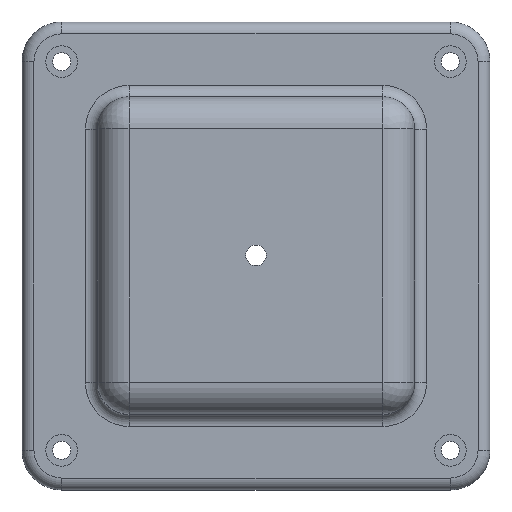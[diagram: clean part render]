
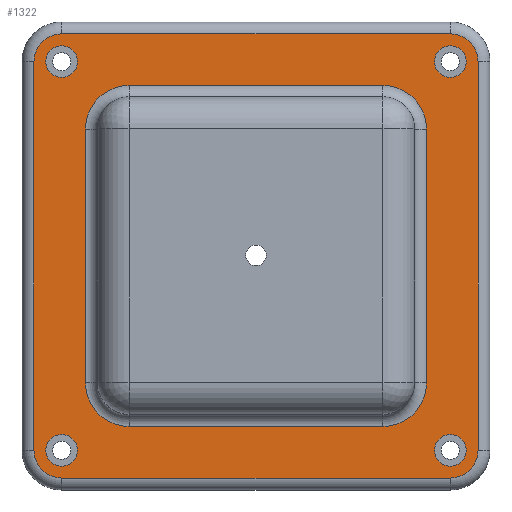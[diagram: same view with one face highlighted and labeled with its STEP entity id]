
A CAD part, top view. The second image highlights one B-rep face of the part: STEP entity #1322.
In plain terms, the highlighted planar face has unit normal (0, 0, 1).
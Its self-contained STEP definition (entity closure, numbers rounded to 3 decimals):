
#42=LINE('',#2171,#106);
#44=LINE('',#2183,#108);
#46=LINE('',#2195,#110);
#47=LINE('',#2203,#111);
#56=LINE('',#2228,#120);
#57=LINE('',#2232,#121);
#58=LINE('',#2236,#122);
#59=LINE('',#2239,#123);
#106=VECTOR('',#1691,98.);
#108=VECTOR('',#1705,98.);
#110=VECTOR('',#1719,98.);
#111=VECTOR('',#1730,98.);
#120=VECTOR('',#1755,64.);
#121=VECTOR('',#1758,64.);
#122=VECTOR('',#1761,64.);
#123=VECTOR('',#1764,64.);
#167=PLANE('',#1459);
#250=FACE_BOUND('',#427,.T.);
#251=FACE_BOUND('',#428,.T.);
#252=FACE_BOUND('',#429,.T.);
#253=FACE_BOUND('',#430,.T.);
#254=FACE_BOUND('',#431,.T.);
#309=FACE_OUTER_BOUND('',#426,.T.);
#426=EDGE_LOOP('',(#1024,#1025,#1026,#1027,#1028,#1029,#1030,#1031));
#427=EDGE_LOOP('',(#1032,#1033,#1034,#1035,#1036,#1037,#1038,#1039));
#428=EDGE_LOOP('',(#1040));
#429=EDGE_LOOP('',(#1041));
#430=EDGE_LOOP('',(#1042));
#431=EDGE_LOOP('',(#1043));
#559=CIRCLE('',#1431,7.);
#565=CIRCLE('',#1439,7.);
#569=CIRCLE('',#1445,7.);
#573=CIRCLE('',#1451,7.);
#576=CIRCLE('',#1460,11.);
#577=CIRCLE('',#1461,11.);
#578=CIRCLE('',#1462,11.);
#579=CIRCLE('',#1463,11.);
#580=CIRCLE('',#1464,4.);
#581=CIRCLE('',#1465,4.);
#582=CIRCLE('',#1466,4.);
#583=CIRCLE('',#1467,4.);
#677=VERTEX_POINT('',#2159);
#678=VERTEX_POINT('',#2161);
#680=VERTEX_POINT('',#2167);
#682=VERTEX_POINT('',#2173);
#684=VERTEX_POINT('',#2179);
#686=VERTEX_POINT('',#2185);
#688=VERTEX_POINT('',#2191);
#690=VERTEX_POINT('',#2197);
#697=VERTEX_POINT('',#2224);
#698=VERTEX_POINT('',#2225);
#699=VERTEX_POINT('',#2227);
#700=VERTEX_POINT('',#2229);
#701=VERTEX_POINT('',#2231);
#702=VERTEX_POINT('',#2233);
#703=VERTEX_POINT('',#2235);
#704=VERTEX_POINT('',#2237);
#705=VERTEX_POINT('',#2240);
#706=VERTEX_POINT('',#2242);
#707=VERTEX_POINT('',#2244);
#708=VERTEX_POINT('',#2246);
#795=EDGE_CURVE('',#677,#678,#559,.T.);
#800=EDGE_CURVE('',#678,#680,#42,.T.);
#803=EDGE_CURVE('',#680,#682,#565,.T.);
#806=EDGE_CURVE('',#682,#684,#44,.T.);
#809=EDGE_CURVE('',#684,#686,#569,.T.);
#812=EDGE_CURVE('',#686,#688,#46,.T.);
#815=EDGE_CURVE('',#688,#690,#573,.T.);
#816=EDGE_CURVE('',#690,#677,#47,.T.);
#827=EDGE_CURVE('',#697,#698,#576,.T.);
#828=EDGE_CURVE('',#699,#697,#56,.T.);
#829=EDGE_CURVE('',#700,#699,#577,.T.);
#830=EDGE_CURVE('',#701,#700,#57,.T.);
#831=EDGE_CURVE('',#702,#701,#578,.T.);
#832=EDGE_CURVE('',#703,#702,#58,.T.);
#833=EDGE_CURVE('',#704,#703,#579,.T.);
#834=EDGE_CURVE('',#698,#704,#59,.T.);
#835=EDGE_CURVE('',#705,#705,#580,.T.);
#836=EDGE_CURVE('',#706,#706,#581,.T.);
#837=EDGE_CURVE('',#707,#707,#582,.T.);
#838=EDGE_CURVE('',#708,#708,#583,.T.);
#1024=ORIENTED_EDGE('',*,*,#795,.F.);
#1025=ORIENTED_EDGE('',*,*,#816,.F.);
#1026=ORIENTED_EDGE('',*,*,#815,.F.);
#1027=ORIENTED_EDGE('',*,*,#812,.F.);
#1028=ORIENTED_EDGE('',*,*,#809,.F.);
#1029=ORIENTED_EDGE('',*,*,#806,.F.);
#1030=ORIENTED_EDGE('',*,*,#803,.F.);
#1031=ORIENTED_EDGE('',*,*,#800,.F.);
#1032=ORIENTED_EDGE('',*,*,#827,.F.);
#1033=ORIENTED_EDGE('',*,*,#828,.F.);
#1034=ORIENTED_EDGE('',*,*,#829,.F.);
#1035=ORIENTED_EDGE('',*,*,#830,.F.);
#1036=ORIENTED_EDGE('',*,*,#831,.F.);
#1037=ORIENTED_EDGE('',*,*,#832,.F.);
#1038=ORIENTED_EDGE('',*,*,#833,.F.);
#1039=ORIENTED_EDGE('',*,*,#834,.F.);
#1040=ORIENTED_EDGE('',*,*,#835,.T.);
#1041=ORIENTED_EDGE('',*,*,#836,.T.);
#1042=ORIENTED_EDGE('',*,*,#837,.T.);
#1043=ORIENTED_EDGE('',*,*,#838,.T.);
#1322=ADVANCED_FACE('',(#309,#250,#251,#252,#253,#254),#167,.T.);
#1431=AXIS2_PLACEMENT_3D('',#2162,#1680,#1681);
#1439=AXIS2_PLACEMENT_3D('',#2177,#1698,#1699);
#1445=AXIS2_PLACEMENT_3D('',#2189,#1712,#1713);
#1451=AXIS2_PLACEMENT_3D('',#2201,#1726,#1727);
#1459=AXIS2_PLACEMENT_3D('',#2223,#1751,#1752);
#1460=AXIS2_PLACEMENT_3D('',#2226,#1753,#1754);
#1461=AXIS2_PLACEMENT_3D('',#2230,#1756,#1757);
#1462=AXIS2_PLACEMENT_3D('',#2234,#1759,#1760);
#1463=AXIS2_PLACEMENT_3D('',#2238,#1762,#1763);
#1464=AXIS2_PLACEMENT_3D('',#2241,#1765,#1766);
#1465=AXIS2_PLACEMENT_3D('',#2243,#1767,#1768);
#1466=AXIS2_PLACEMENT_3D('',#2245,#1769,#1770);
#1467=AXIS2_PLACEMENT_3D('',#2247,#1771,#1772);
#1680=DIRECTION('center_axis',(0.,0.,-1.));
#1681=DIRECTION('ref_axis',(0.707,0.707,0.));
#1691=DIRECTION('',(0.,-1.,0.));
#1698=DIRECTION('center_axis',(0.,0.,-1.));
#1699=DIRECTION('ref_axis',(0.707,-0.707,0.));
#1705=DIRECTION('',(-1.,0.,0.));
#1712=DIRECTION('center_axis',(0.,0.,-1.));
#1713=DIRECTION('ref_axis',(-0.707,-0.707,0.));
#1719=DIRECTION('',(0.,1.,0.));
#1726=DIRECTION('center_axis',(0.,0.,-1.));
#1727=DIRECTION('ref_axis',(-0.707,0.707,0.));
#1730=DIRECTION('',(1.,0.,0.));
#1751=DIRECTION('center_axis',(0.,0.,1.));
#1752=DIRECTION('ref_axis',(1.,0.,0.));
#1753=DIRECTION('center_axis',(0.,0.,1.));
#1754=DIRECTION('ref_axis',(0.707,-0.707,0.));
#1755=DIRECTION('',(1.,0.,0.));
#1756=DIRECTION('center_axis',(0.,0.,1.));
#1757=DIRECTION('ref_axis',(-0.707,-0.707,0.));
#1758=DIRECTION('',(0.,-1.,0.));
#1759=DIRECTION('center_axis',(0.,0.,1.));
#1760=DIRECTION('ref_axis',(-0.707,0.707,0.));
#1761=DIRECTION('',(-1.,0.,0.));
#1762=DIRECTION('center_axis',(0.,0.,1.));
#1763=DIRECTION('ref_axis',(0.707,0.707,0.));
#1764=DIRECTION('',(0.,1.,0.));
#1765=DIRECTION('center_axis',(0.,0.,-1.));
#1766=DIRECTION('ref_axis',(1.,0.,0.));
#1767=DIRECTION('center_axis',(0.,0.,-1.));
#1768=DIRECTION('ref_axis',(1.,0.,0.));
#1769=DIRECTION('center_axis',(0.,0.,-1.));
#1770=DIRECTION('ref_axis',(1.,0.,0.));
#1771=DIRECTION('center_axis',(0.,0.,-1.));
#1772=DIRECTION('ref_axis',(1.,0.,0.));
#2159=CARTESIAN_POINT('',(49.,56.,10.));
#2161=CARTESIAN_POINT('',(56.,49.,10.));
#2162=CARTESIAN_POINT('Origin',(49.,49.,10.));
#2167=CARTESIAN_POINT('',(56.,-49.,10.));
#2171=CARTESIAN_POINT('',(56.,-29.5,10.));
#2173=CARTESIAN_POINT('',(49.,-56.,10.));
#2177=CARTESIAN_POINT('Origin',(49.,-49.,10.));
#2179=CARTESIAN_POINT('',(-49.,-56.,10.));
#2183=CARTESIAN_POINT('',(-29.5,-56.,10.));
#2185=CARTESIAN_POINT('',(-56.,-49.,10.));
#2189=CARTESIAN_POINT('Origin',(-49.,-49.,10.));
#2191=CARTESIAN_POINT('',(-56.,49.,10.));
#2195=CARTESIAN_POINT('',(-56.,29.5,10.));
#2197=CARTESIAN_POINT('',(-49.,56.,10.));
#2201=CARTESIAN_POINT('Origin',(-49.,49.,10.));
#2203=CARTESIAN_POINT('',(29.5,56.,10.));
#2223=CARTESIAN_POINT('Origin',(0.,0.,
10.));
#2224=CARTESIAN_POINT('',(32.,-43.,10.));
#2225=CARTESIAN_POINT('',(43.,-32.,10.));
#2226=CARTESIAN_POINT('Origin',(32.,-32.,10.));
#2227=CARTESIAN_POINT('',(-32.,-43.,10.));
#2228=CARTESIAN_POINT('',(-20.,-43.,10.));
#2229=CARTESIAN_POINT('',(-43.,-32.,10.));
#2230=CARTESIAN_POINT('Origin',(-32.,-32.,10.));
#2231=CARTESIAN_POINT('',(-43.,32.,10.));
#2232=CARTESIAN_POINT('',(-43.,20.,10.));
#2233=CARTESIAN_POINT('',(-32.,43.,10.));
#2234=CARTESIAN_POINT('Origin',(-32.,32.,10.));
#2235=CARTESIAN_POINT('',(32.,43.,10.));
#2236=CARTESIAN_POINT('',(20.,43.,10.));
#2237=CARTESIAN_POINT('',(43.,32.,10.));
#2238=CARTESIAN_POINT('Origin',(32.,32.,10.));
#2239=CARTESIAN_POINT('',(43.,0.,10.));
#2240=CARTESIAN_POINT('',(-45.,49.,10.));
#2241=CARTESIAN_POINT('Origin',(-49.,49.,10.));
#2242=CARTESIAN_POINT('',(53.,49.,10.));
#2243=CARTESIAN_POINT('Origin',(49.,49.,10.));
#2244=CARTESIAN_POINT('',(53.,-49.,10.));
#2245=CARTESIAN_POINT('Origin',(49.,-49.,10.));
#2246=CARTESIAN_POINT('',(-45.,-49.,10.));
#2247=CARTESIAN_POINT('Origin',(-49.,-49.,10.));
